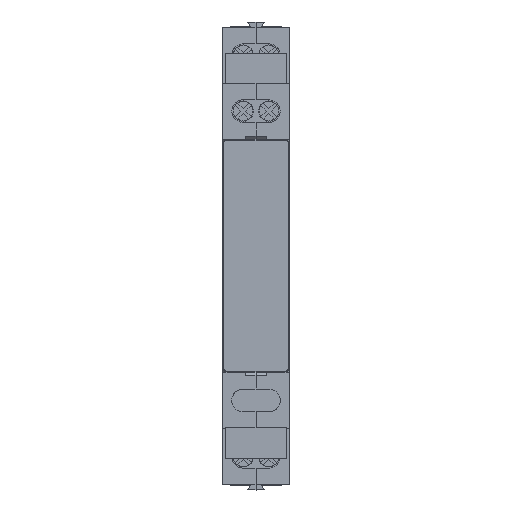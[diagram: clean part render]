
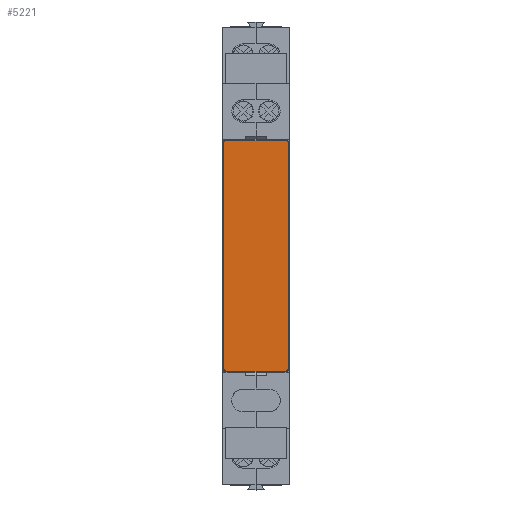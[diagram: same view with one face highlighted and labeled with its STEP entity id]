
A CAD part, top view. The second image highlights one B-rep face of the part: STEP entity #5221.
In plain terms, the highlighted planar face has unit normal (0, 0, 1).
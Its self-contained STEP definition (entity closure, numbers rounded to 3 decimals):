
#126 = LINE ( 'NONE', #14012, #14379 ) ;
#295 = DIRECTION ( 'NONE',  ( -1., 0., 0. ) ) ;
#300 = CARTESIAN_POINT ( 'NONE',  ( 0.39, 68.45, 62.123 ) ) ;
#321 = EDGE_CURVE ( 'NONE', #12880, #9347, #16413, .T. ) ;
#446 = DIRECTION ( 'NONE',  ( -1., 0., 0. ) ) ;
#638 = ORIENTED_EDGE ( 'NONE', *, *, #10857, .T. ) ;
#917 = VECTOR ( 'NONE', #13587, 1000. ) ;
#1312 = DIRECTION ( 'NONE',  ( 0., 0., -1. ) ) ;
#1399 = EDGE_CURVE ( 'NONE', #10841, #12880, #5596, .T. ) ;
#2161 = ORIENTED_EDGE ( 'NONE', *, *, #15797, .T. ) ;
#2247 = EDGE_CURVE ( 'NONE', #7216, #15518, #10980, .T. ) ;
#2481 = CARTESIAN_POINT ( 'NONE',  ( 0.141, 67.85, 62.123 ) ) ;
#3114 = LINE ( 'NONE', #4121, #8769 ) ;
#3669 = CARTESIAN_POINT ( 'NONE',  ( 12.859, 23.85, 62.123 ) ) ;
#3948 =( BOUNDED_CURVE ( )  B_SPLINE_CURVE ( 3, ( #10008, #15113, #6250, #3669 ),
 .UNSPECIFIED., .F., .T. ) 
 B_SPLINE_CURVE_WITH_KNOTS ( ( 4, 4 ),
 ( 2.186, 3.757 ),
 .UNSPECIFIED. ) 
 CURVE ( )  GEOMETRIC_REPRESENTATION_ITEM ( )  RATIONAL_B_SPLINE_CURVE ( ( 1., 0.805, 0.805, 1. ) ) 
 REPRESENTATION_ITEM ( '' )  );
#4121 = CARTESIAN_POINT ( 'NONE',  ( 13., 23.25, 62.123 ) ) ;
#4137 = CARTESIAN_POINT ( 'NONE',  ( 0.141, 67.85, 62.123 ) ) ;
#4329 = DIRECTION ( 'NONE',  ( 0., -1., 0. ) ) ;
#4401 = EDGE_CURVE ( 'NONE', #10029, #15518, #3948, .T. ) ;
#4744 = ORIENTED_EDGE ( 'NONE', *, *, #1399, .T. ) ;
#4814 = CARTESIAN_POINT ( 'NONE',  ( 12.859, 23.85, 62.123 ) ) ;
#5056 = CARTESIAN_POINT ( 'NONE',  ( 0.141, 23.499, 62.123 ) ) ;
#5163 = CARTESIAN_POINT ( 'NONE',  ( 0.741, 68.45, 62.123 ) ) ;
#5221 = ADVANCED_FACE ( 'NONE', ( #7660 ), #10422, .F. ) ;
#5302 = CARTESIAN_POINT ( 'NONE',  ( 0.141, 23.85, 62.123 ) ) ;
#5428 = VECTOR ( 'NONE', #4329, 1000. ) ;
#5596 = LINE ( 'NONE', #14695, #5428 ) ;
#6112 = ORIENTED_EDGE ( 'NONE', *, *, #11205, .F. ) ;
#6250 = CARTESIAN_POINT ( 'NONE',  ( 12.859, 23.499, 62.123 ) ) ;
#6297 = CARTESIAN_POINT ( 'NONE',  ( 12.259, 23.25, 62.123 ) ) ;
#6735 = CARTESIAN_POINT ( 'NONE',  ( 0.741, 23.25, 62.123 ) ) ;
#6777 = VERTEX_POINT ( 'NONE', #9569 ) ;
#6971 = AXIS2_PLACEMENT_3D ( 'NONE', #14265, #1312, #11755 ) ;
#7216 = VERTEX_POINT ( 'NONE', #11971 ) ;
#7302 = CARTESIAN_POINT ( 'NONE',  ( 0.141, 23.85, 62.123 ) ) ;
#7660 = FACE_OUTER_BOUND ( 'NONE', #7834, .T. ) ;
#7834 = EDGE_LOOP ( 'NONE', ( #6112, #15586, #14455, #12559, #638, #2161, #4744, #13107 ) ) ;
#8200 = VERTEX_POINT ( 'NONE', #14329 ) ;
#8769 = VECTOR ( 'NONE', #446, 1000. ) ;
#8957 =( BOUNDED_CURVE ( )  B_SPLINE_CURVE ( 3, ( #5163, #300, #12682, #2481 ),
 .UNSPECIFIED., .F., .T. ) 
 B_SPLINE_CURVE_WITH_KNOTS ( ( 4, 4 ),
 ( 5.328, 6.899 ),
 .UNSPECIFIED. ) 
 CURVE ( )  GEOMETRIC_REPRESENTATION_ITEM ( )  RATIONAL_B_SPLINE_CURVE ( ( 1., 0.805, 0.805, 1. ) ) 
 REPRESENTATION_ITEM ( '' )  );
#9347 = VERTEX_POINT ( 'NONE', #6735 ) ;
#9569 = CARTESIAN_POINT ( 'NONE',  ( 0.741, 68.45, 62.123 ) ) ;
#10008 = CARTESIAN_POINT ( 'NONE',  ( 12.259, 23.25, 62.123 ) ) ;
#10029 = VERTEX_POINT ( 'NONE', #6297 ) ;
#10144 = CARTESIAN_POINT ( 'NONE',  ( 0.741, 23.25, 62.123 ) ) ;
#10422 = PLANE ( 'NONE',  #6971 ) ;
#10841 = VERTEX_POINT ( 'NONE', #4137 ) ;
#10857 = EDGE_CURVE ( 'NONE', #8200, #6777, #126, .T. ) ;
#10980 = LINE ( 'NONE', #16078, #917 ) ;
#11205 = EDGE_CURVE ( 'NONE', #10029, #9347, #3114, .T. ) ;
#11751 = EDGE_CURVE ( 'NONE', #7216, #8200, #12390, .T. ) ;
#11755 = DIRECTION ( 'NONE',  ( -1., 0., 0. ) ) ;
#11971 = CARTESIAN_POINT ( 'NONE',  ( 12.859, 67.85, 62.123 ) ) ;
#12390 =( BOUNDED_CURVE ( )  B_SPLINE_CURVE ( 3, ( #14711, #13715, #14883, #16233 ),
 .UNSPECIFIED., .F., .F. ) 
 B_SPLINE_CURVE_WITH_KNOTS ( ( 4, 4 ),
 ( 5.668, 7.238 ),
 .UNSPECIFIED. ) 
 CURVE ( )  GEOMETRIC_REPRESENTATION_ITEM ( )  RATIONAL_B_SPLINE_CURVE ( ( 1., 0.805, 0.805, 1. ) ) 
 REPRESENTATION_ITEM ( '' )  );
#12559 = ORIENTED_EDGE ( 'NONE', *, *, #11751, .T. ) ;
#12571 = CARTESIAN_POINT ( 'NONE',  ( 0.39, 23.25, 62.123 ) ) ;
#12682 = CARTESIAN_POINT ( 'NONE',  ( 0.141, 68.201, 62.123 ) ) ;
#12880 = VERTEX_POINT ( 'NONE', #5302 ) ;
#13107 = ORIENTED_EDGE ( 'NONE', *, *, #321, .T. ) ;
#13587 = DIRECTION ( 'NONE',  ( 0., -1., 0. ) ) ;
#13715 = CARTESIAN_POINT ( 'NONE',  ( 12.859, 68.201, 62.123 ) ) ;
#14012 = CARTESIAN_POINT ( 'NONE',  ( 13., 68.45, 62.123 ) ) ;
#14265 = CARTESIAN_POINT ( 'NONE',  ( 13., 23.25, 62.123 ) ) ;
#14329 = CARTESIAN_POINT ( 'NONE',  ( 12.259, 68.45, 62.123 ) ) ;
#14379 = VECTOR ( 'NONE', #295, 1000. ) ;
#14455 = ORIENTED_EDGE ( 'NONE', *, *, #2247, .F. ) ;
#14695 = CARTESIAN_POINT ( 'NONE',  ( 0.141, 23.15, 62.123 ) ) ;
#14711 = CARTESIAN_POINT ( 'NONE',  ( 12.859, 67.85, 62.123 ) ) ;
#14883 = CARTESIAN_POINT ( 'NONE',  ( 12.61, 68.45, 62.123 ) ) ;
#15113 = CARTESIAN_POINT ( 'NONE',  ( 12.61, 23.25, 62.123 ) ) ;
#15518 = VERTEX_POINT ( 'NONE', #4814 ) ;
#15586 = ORIENTED_EDGE ( 'NONE', *, *, #4401, .T. ) ;
#15797 = EDGE_CURVE ( 'NONE', #6777, #10841, #8957, .T. ) ;
#16078 = CARTESIAN_POINT ( 'NONE',  ( 12.859, 23.15, 62.123 ) ) ;
#16233 = CARTESIAN_POINT ( 'NONE',  ( 12.259, 68.45, 62.123 ) ) ;
#16413 =( BOUNDED_CURVE ( )  B_SPLINE_CURVE ( 3, ( #7302, #5056, #12571, #10144 ),
 .UNSPECIFIED., .F., .T. ) 
 B_SPLINE_CURVE_WITH_KNOTS ( ( 4, 4 ),
 ( 2.526, 4.097 ),
 .UNSPECIFIED. ) 
 CURVE ( )  GEOMETRIC_REPRESENTATION_ITEM ( )  RATIONAL_B_SPLINE_CURVE ( ( 1., 0.805, 0.805, 1. ) ) 
 REPRESENTATION_ITEM ( '' )  );
